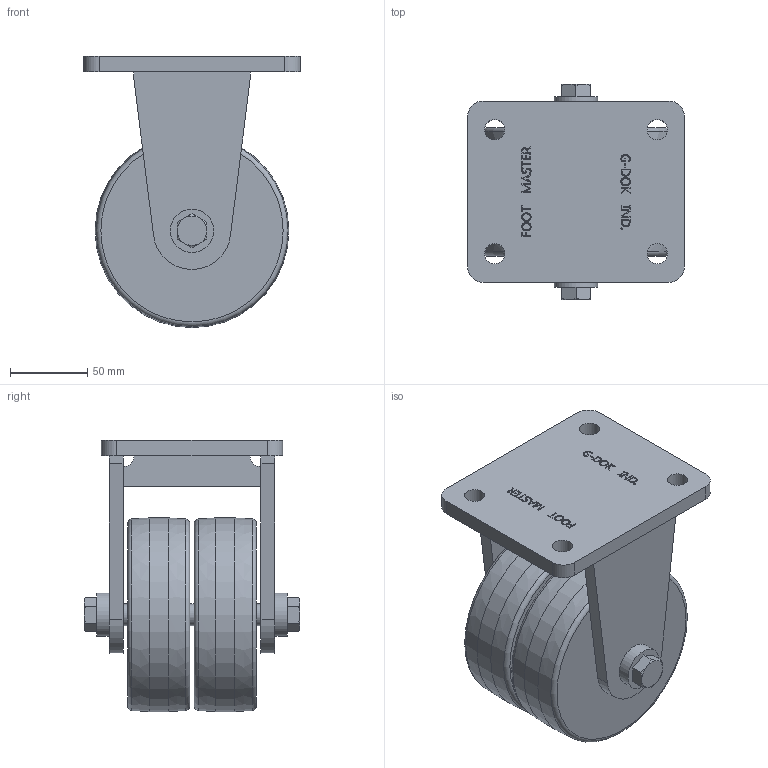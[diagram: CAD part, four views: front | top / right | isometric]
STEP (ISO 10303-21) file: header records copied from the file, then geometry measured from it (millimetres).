
FILE_DESCRIPTION((''),'2;1');
FILE_NAME('E:\GXTT\가져온 구성요소\GXTT-125 RF-3D\GXTT-125-ARF.stp','2011-11-21T09:46:19',('Administrator'),(''),'Autodesk Inventor 2011','Autodesk Inventor 2011','');
FILE_SCHEMA(('AUTOMOTIVE_DESIGN { 1 0 10303 214 1 1 1 1 }'));
Length unit declared in the file: millimetre
Products named in the file (1): GXTT-125-ARF
Bounding box: 140 x 139 x 175 mm (x, y, z)
Volume: 1287819.5 mm3; surface area: 156202.5 mm2
Topology: 1 solids, 2 shells, 711 faces, 1918 edges, 1272 vertices
Faces by surface type: plane 398, bspline 277, cylinder 20, cone 12, torus 4
Full cylindrical faces by diameter (mm): 4 x1, 13 x4, 14 x3, 28 x2, 125 x2
Entity records: 23470 total; most frequent: CARTESIAN_POINT 7575, ORIENTED_EDGE 3788, DIRECTION 2254, EDGE_CURVE 1894, VERTEX_POINT 1268, VECTOR 1264, LINE 1264, EDGE_LOOP 806
